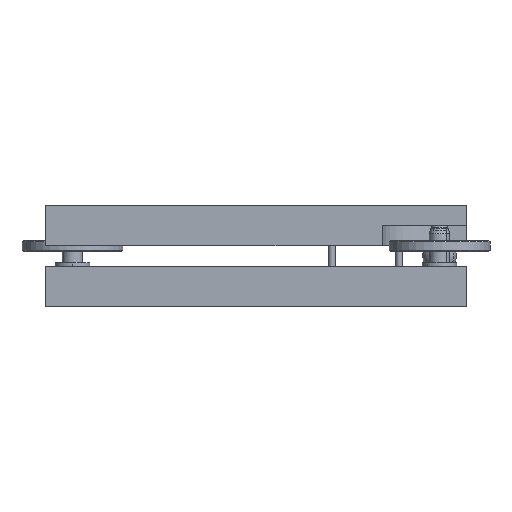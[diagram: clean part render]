
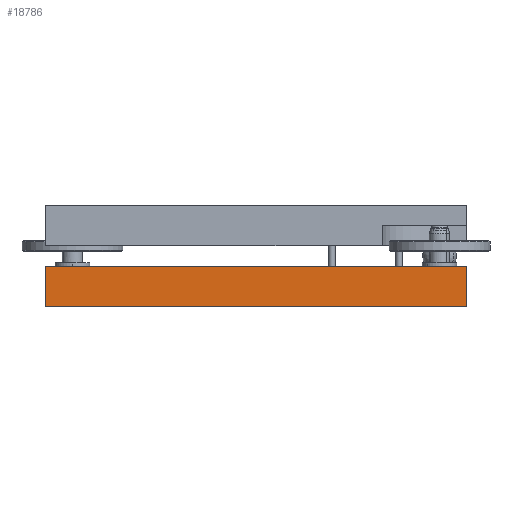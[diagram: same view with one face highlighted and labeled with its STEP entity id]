
A CAD part, left-side view. The second image highlights one B-rep face of the part: STEP entity #18786.
In plain terms, the highlighted planar face has unit normal (-1, 0, 0).
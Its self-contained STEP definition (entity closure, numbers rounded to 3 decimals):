
#9314=CARTESIAN_POINT('',(-27.655,20.26,12.));
#9315=VERTEX_POINT('',#9314);
#9322=CARTESIAN_POINT('',(-27.655,-104.74,12.));
#9323=VERTEX_POINT('',#9322);
#9324=CARTESIAN_POINT('',(-27.655,-104.74,12.));
#9325=DIRECTION('',(0.0,1.0,0.0));
#9326=VECTOR('',#9325,125.0);
#9327=LINE('',#9324,#9326);
#9328=EDGE_CURVE('',#9323,#9315,#9327,.T.);
#17316=CARTESIAN_POINT('',(-27.655,-104.74,0.0));
#17317=VERTEX_POINT('',#17316);
#17318=CARTESIAN_POINT('',(-27.655,-104.74,0.0));
#17319=DIRECTION('',(0.0,0.0,1.0));
#17320=VECTOR('',#17319,12.);
#17321=LINE('',#17318,#17320);
#17322=EDGE_CURVE('',#17317,#9323,#17321,.T.);
#18763=CARTESIAN_POINT('',(-27.655,-104.74,0.0));
#18764=DIRECTION('',(-1.0,0.0,0.0));
#18765=DIRECTION('',(0.0,0.0,1.0));
#18766=AXIS2_PLACEMENT_3D('',#18763,#18764,#18765);
#18767=PLANE('',#18766);
#18768=ORIENTED_EDGE('',*,*,#9328,.T.);
#18769=CARTESIAN_POINT('',(-27.655,20.26,0.0));
#18770=VERTEX_POINT('',#18769);
#18771=CARTESIAN_POINT('',(-27.655,20.26,0.0));
#18772=DIRECTION('',(0.0,0.0,1.0));
#18773=VECTOR('',#18772,12.);
#18774=LINE('',#18771,#18773);
#18775=EDGE_CURVE('',#18770,#9315,#18774,.T.);
#18776=ORIENTED_EDGE('',*,*,#18775,.F.);
#18777=CARTESIAN_POINT('',(-27.655,-104.74,0.0));
#18778=DIRECTION('',(0.0,1.0,0.0));
#18779=VECTOR('',#18778,125.0);
#18780=LINE('',#18777,#18779);
#18781=EDGE_CURVE('',#17317,#18770,#18780,.T.);
#18782=ORIENTED_EDGE('',*,*,#18781,.F.);
#18783=ORIENTED_EDGE('',*,*,#17322,.T.);
#18784=EDGE_LOOP('',(#18768,#18776,#18782,#18783));
#18785=FACE_OUTER_BOUND('',#18784,.T.);
#18786=ADVANCED_FACE('',(#18785),#18767,.T.);
